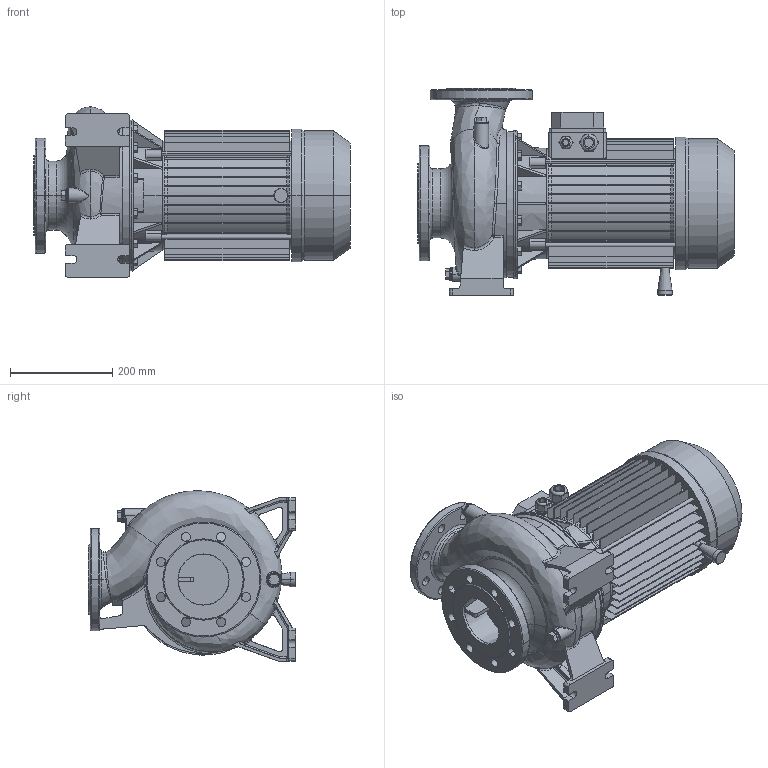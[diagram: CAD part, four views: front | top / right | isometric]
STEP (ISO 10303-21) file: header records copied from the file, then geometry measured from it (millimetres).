
FILE_DESCRIPTION((''),'2;1');
FILE_NAME('3M_80-160_11_IE2_ASM','2011-04-22T',('Utente'),('"Ebara Pumps Europe +39.444.706811"'),'PRO/ENGINEER BY PARAMETRIC TECHNOLOGY CORPORATION, 2009360','PRO/ENGINEER BY PARAMETRIC TECHNOLOGY CORPORATION, 2009360','');
FILE_SCHEMA(('AUTOMOTIVE_DESIGN { 1 0 10303 214 1 1 1 1 }'));
Length unit declared in the file: millimetre
Products named in the file (5): CORPO_POMPA_80-160; SUPPORTO_3M_230_132; MEC_132X170_190_IE2; 72174; 3M_80-160_11_IE2_ASM
Assembly tree (4 placements, depth 2):
  3M_80-160_11_IE2_ASM
    CORPO_POMPA_80-160
    SUPPORTO_3M_230_132
    MEC_132X170_190_IE2
    72174
Bounding box: 620 x 405 x 333.75 mm (x, y, z)
Volume: 20168403.3 mm3; surface area: 1773722.3 mm2
Topology: 4 solids, 4 shells, 972 faces, 2421 edges, 1499 vertices
Faces by surface type: plane 525, cylinder 214, bspline 98, cone 90, torus 35, sphere 10
Entity records: 40455 total; most frequent: CARTESIAN_POINT 13367, ORIENTED_EDGE 4840, DIRECTION 4486, EDGE_CURVE 2420, AXIS2_PLACEMENT_3D 1619, VERTEX_POINT 1499, VECTOR 1248, LINE 1248
